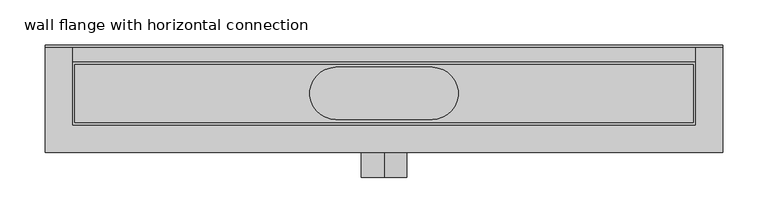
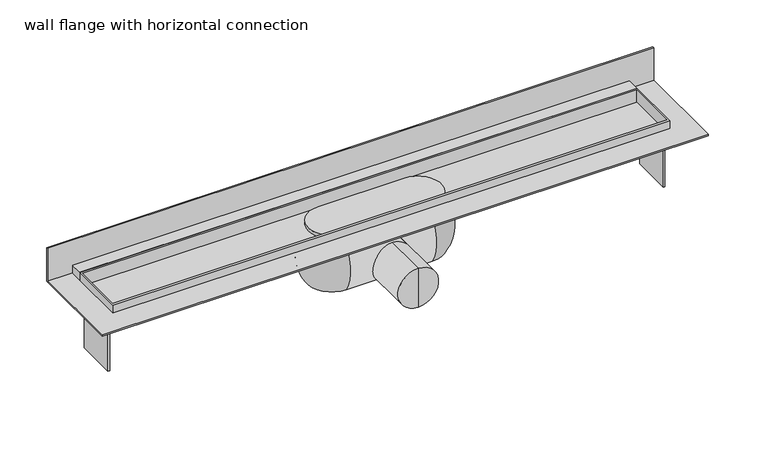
"""IFC4 building model written with IfcOpenShell, lengths in millimetres: sanitary terminal geometry, PF_UN_ShowerDrain C (INT)_ACO : wall flange with horizontal connection."""

from ifc_helpers import new_model, si_unit, point, frame, origin, origin_with_axes, place, context, project, spatial, polyline, circle_curve, ellipse_curve, trimmed, outline, extrude, faceted_brep, source, transform, mapped, element, save
from ifc_brep_helpers import plane_surface, cylinder_surface, revolved_surface, advanced_brep


def wall_flange_with_horizontal_connection_48dca029(model_context):
    return source(origin(), model_context, "Body", "SolidModel", [
        advanced_brep(
        [(-52.8420194, -28.757915, 0.0), (-52.8420194, 28.757915, 0.0), (-52.8420194, 28.757915, -11.7509027), (-52.8420194, -28.757915, -11.7509027), (-52.8420194, 20.3622022, -75.4877048), (-52.8420194, -20.3622022, -75.4877048), (-52.8420194, -30.8518848, -71.7143523), (-52.8420194, 30.8518848, -71.7143523), (52.8420194, -28.757915, 0.0), (52.8420194, -28.757915, -11.7509027), (52.8420194, -30.8518848, -71.7143523), (52.8420194, -20.3622022, -75.4877048), (52.8420194, 20.3622022, -75.4877048), (52.8420194, 30.8518848, -71.7143523), (52.8420194, 28.757915, -11.7509027), (52.8420194, 28.757915, 0.0)],
        [
            (0, 1, circle_curve(frame((-52.8420194, 0.0, 0.0), z_axis=(0.0, 0.0, -1.0), x_axis=(0.0, 1.0, 0.0)), 28.757915)),
            (1, 2),
            (2, 3, circle_curve(frame((-52.8420194, 0.0, -11.7509027), z_axis=(0.0, 0.0, 1.0), x_axis=(0.0, 1.0, 0.0)), 28.757915)),
            (3, 0),
            (4, 5, circle_curve(frame((-52.8420194, 0.0, -75.4877048), z_axis=(0.0, 0.0, 1.0), x_axis=(0.0, 1.0, 0.0)), 20.3622022)),
            (5, 6, circle_curve(frame((-52.8420194, -20.3622022, -59.0206997), z_axis=(-1.0, 0.0, 0.0), x_axis=(0.0, 1.0, 0.0)), 16.4670051)),
            (6, 7, circle_curve(frame((-52.8420194, 0.0, -71.7143523), z_axis=(0.0, 0.0, -1.0), x_axis=(0.0, 1.0, 0.0)), 30.8518848)),
            (7, 4, circle_curve(frame((-52.8420194, 20.3622022, -59.0206997), z_axis=(-1.0, 0.0, 0.0), x_axis=(0.0, -1.0, 0.0)), 16.4670051)),
            (2, 7, circle_curve(frame((-52.8420194, -11.2789491, -43.1673071), z_axis=(-1.0, 0.0, 0.0), x_axis=(0.0, -1.0, 0.0)), 50.8914625)),
            (6, 3, circle_curve(frame((-52.8420194, 11.2789491, -43.1673071), z_axis=(-1.0, 0.0, 0.0), x_axis=(0.0, 1.0, 0.0)), 50.8914625)),
            (8, 0),
            (3, 9),
            (9, 8),
            (6, 10),
            (10, 9, circle_curve(frame((52.8420194, 11.2789491, -43.1673071), z_axis=(-1.0, 0.0, 0.0), x_axis=(0.0, 1.0, 0.0)), 50.8914625)),
            (5, 11),
            (11, 10, circle_curve(frame((52.8420194, -20.3622022, -59.0206997), z_axis=(-1.0, 0.0, 0.0), x_axis=(0.0, 1.0, 0.0)), 16.4670051)),
            (4, 12),
            (12, 11, circle_curve(frame((52.8420194, 0.0, -75.4877048), z_axis=(0.0, 0.0, -1.0), x_axis=(0.0, 1.0, 0.0)), 20.3622022)),
            (7, 13),
            (13, 12, circle_curve(frame((52.8420194, 20.3622022, -59.0206997), z_axis=(-1.0, 0.0, 0.0), x_axis=(0.0, -1.0, 0.0)), 16.4670051)),
            (2, 14),
            (14, 13, circle_curve(frame((52.8420194, -11.2789491, -43.1673071), z_axis=(-1.0, 0.0, 0.0), x_axis=(0.0, -1.0, 0.0)), 50.8914625)),
            (1, 15),
            (15, 14),
            (8, 15, circle_curve(frame((52.8420194, 0.0, 0.0), z_axis=(0.0, 0.0, 1.0), x_axis=(0.0, 1.0, 0.0)), 28.757915)),
            (9, 14, circle_curve(frame((52.8420194, 0.0, -11.7509027), z_axis=(0.0, 0.0, 1.0), x_axis=(0.0, 1.0, 0.0)), 28.757915)),
            (10, 13, circle_curve(frame((52.8420194, 0.0, -71.7143523), z_axis=(0.0, 0.0, 1.0), x_axis=(0.0, 1.0, 0.0)), 30.8518848)),
        ],
        [
            cylinder_surface(frame((-52.8420194, 0.0, 20.0), z_axis=(0.0, 0.0, 1.0), x_axis=(0.0, 1.0, 0.0)), 28.757915),
            revolved_surface(trimmed(ellipse_curve(frame((-52.8420194, 20.3622022, -59.0206997), z_axis=(1.0, 0.0, 0.0), x_axis=(0.0, -1.0, 0.0)), 16.4670051, 16.4670051), [point((-52.8420194, 20.3622022, -75.4877048))], [point((-52.8420194, 30.8518848, -71.7143523))], True, "CARTESIAN"), (-52.8420194, 0.0, 20.0), (0.0, 0.0, 1.0)),
            revolved_surface(trimmed(ellipse_curve(frame((-52.8420194, -11.2789491, -43.1673071), z_axis=(1.0, 0.0, 0.0), x_axis=(0.0, -1.0, 0.0)), 50.8914625, 50.8914625), [point((-52.8420194, 30.8518848, -71.7143523))], [point((-52.8420194, 28.757915, -11.7509027))], True, "CARTESIAN"), (-52.8420194, 0.0, 20.0), (0.0, 0.0, 1.0)),
            plane_surface(frame((52.8420194, -28.757915, 0.0), z_axis=(0.0, -1.0, 0.0), x_axis=(-1.0, 0.0, 0.0))),
            cylinder_surface(frame((-52.8420194, 11.2789491, -43.1673071), z_axis=(1.0, 0.0, 0.0), x_axis=(0.0, 1.0, 0.0)), 50.8914625),
            cylinder_surface(frame((-52.8420194, -20.3622022, -59.0206997), z_axis=(1.0, 0.0, 0.0), x_axis=(0.0, 1.0, 0.0)), 16.4670051),
            plane_surface(frame((52.8420194, -20.3622022, -75.4877048), z_axis=(0.0, 0.0, -1.0), x_axis=(-1.0, 0.0, 0.0))),
            cylinder_surface(frame((-52.8420194, 20.3622022, -59.0206997), z_axis=(1.0, 0.0, 0.0), x_axis=(0.0, -1.0, 0.0)), 16.4670051),
            cylinder_surface(frame((-52.8420194, -11.2789491, -43.1673071), z_axis=(1.0, 0.0, 0.0), x_axis=(0.0, -1.0, 0.0)), 50.8914625),
            plane_surface(frame((52.8420194, 28.757915, -11.7509027), z_axis=(0.0, 1.0, 0.0), x_axis=(-1.0, 0.0, 0.0))),
            plane_surface(frame((52.8420194, 28.757915, 0.0), z_axis=(0.0, 0.0, 1.0), x_axis=(-1.0, 0.0, 0.0))),
            cylinder_surface(frame((52.8420194, 0.0, 20.0), z_axis=(0.0, 0.0, 1.0), x_axis=(0.0, 1.0, 0.0)), 28.757915),
            revolved_surface(trimmed(ellipse_curve(frame((52.8420194, -11.2789491, -43.1673071), z_axis=(1.0, 0.0, 0.0), x_axis=(0.0, -1.0, 0.0)), 50.8914625, 50.8914625), [point((52.8420194, 30.8518848, -71.7143523))], [point((52.8420194, 28.757915, -11.7509027))], True, "CARTESIAN"), (52.8420194, 0.0, 20.0), (0.0, 0.0, 1.0)),
            revolved_surface(trimmed(ellipse_curve(frame((52.8420194, 20.3622022, -59.0206997), z_axis=(1.0, 0.0, 0.0), x_axis=(0.0, -1.0, 0.0)), 16.4670051, 16.4670051), [point((52.8420194, 20.3622022, -75.4877048))], [point((52.8420194, 30.8518848, -71.7143523))], True, "CARTESIAN"), (52.8420194, 0.0, 20.0), (0.0, 0.0, 1.0)),
        ],
        [
            (0, [[1, 2, 3, 4]]),
            (1, [[5, 6, 7, 8]]),
            (2, [[-3, 9, -7, 10]]),
            (3, [[11, -4, 12, 13]]),
            (4, [[-12, -10, 14, 15]]),
            (5, [[-14, -6, 16, 17]]),
            (6, [[-16, -5, 18, 19]]),
            (7, [[-18, -8, 20, 21]]),
            (8, [[-20, -9, 22, 23]]),
            (9, [[-22, -2, 24, 25]]),
            (10, [[-11, 26, -24, -1]]),
            (11, [[27, -25, -26, -13]]),
            (12, [[-27, -15, 28, -23]]),
            (13, [[-28, -17, -19, -21]]),
        ],
    ),
        advanced_brep(
        [(0.0, -92.5, -50.4496), (0.0, -92.5, -25.404795), (0.0, -92.5, -75.494405), (0.0, -23.2223331, -75.494405), (0.0, -23.2223331, -25.404795), (0.0, -23.2223331, -50.4496)],
        [
            (0, 1),
            (1, 2, circle_curve(frame((0.0, -92.5, -50.4496), z_axis=(0.0, -1.0, 0.0), x_axis=(0.0, 0.0, 1.0)), 25.044805)),
            (2, 0),
            (2, 1, circle_curve(frame((0.0, -92.5, -50.4496), z_axis=(0.0, -1.0, 0.0), x_axis=(0.0, 0.0, 1.0)), 25.044805)),
            (3, 4, circle_curve(frame((0.0, -23.2223331, -50.4496), z_axis=(0.0, 1.0, 0.0), x_axis=(0.0, 0.0, 1.0)), 25.044805)),
            (4, 5),
            (5, 3),
            (4, 3, circle_curve(frame((0.0, -23.2223331, -50.4496), z_axis=(0.0, 1.0, 0.0), x_axis=(0.0, 0.0, 1.0)), 25.044805)),
            (1, 4),
            (3, 2),
        ],
        [
            plane_surface(frame((0.0, -92.5, -50.4496), z_axis=(0.0, -1.0, 0.0), x_axis=(0.0, 0.0, 1.0))),
            plane_surface(frame((0.0, -23.2223331, -50.4496), z_axis=(0.0, 1.0, 0.0), x_axis=(0.0, 0.0, 1.0))),
            cylinder_surface(frame((0.0, -92.5, -50.4496), z_axis=(0.0, -1.0, 0.0), x_axis=(0.0, 0.0, 1.0)), 25.044805),
        ],
        [
            (0, [[1, 2, 3]]),
            (0, [[-3, 4, -1]]),
            (1, [[5, 6, 7]]),
            (1, [[8, -7, -6]]),
            (2, [[-2, 9, -5, 10]]),
            (2, [[-4, -10, -8, -9]]),
        ],
    ),
        extrude(outline(polyline([(372.5, 51.0), (-372.5, 51.0), (-372.5, 53.0), (372.5, 53.0), (372.5, 51.0)])), origin_with_axes(), (0.0, 0.0, 1.0), 44.0),
        extrude(outline(polyline([(342.5, 51.0), (342.5, 35.0), (-342.5, 35.0), (-342.5, 51.0), (342.5, 51.0)])), origin_with_axes(), (0.0, 0.0, 1.0), 12.0),
        faceted_brep([(342.5, 35.0, 12.0), (-342.5, 35.0, 12.0), (-342.5, -35.0, 12.0), (342.5, -35.0, 12.0), (-340.5, 32.0, 12.0), (340.5, 32.0, 12.0), (340.5, -32.0, 12.0), (-340.5, -32.0, 12.0), (342.5, -35.0, -6.0), (-342.5, -35.0, -6.0), (-342.5, -25.0, -6.0), (-340.5, -25.0, -6.0), (-340.5, 25.0, -6.0), (-342.5, 25.0, -6.0), (-342.5, 35.0, -6.0), (342.5, 35.0, -6.0), (342.5, 25.0, -6.0), (340.5, 25.0, -6.0), (340.5, -25.0, -6.0), (342.5, -25.0, -6.0), (-342.5, 25.0, -80.0), (-342.5, -25.0, -80.0), (342.5, -25.0, -80.0), (342.5, 25.0, -80.0), (340.5, 32.0, -4.0), (-340.5, 32.0, -4.0), (-340.5, -32.0, -4.0), (340.5, -32.0, -4.0), (340.5, -25.0, -80.0), (-340.5, -25.0, -80.0), (-340.5, 25.0, -80.0), (340.5, 25.0, -80.0)], [[[0, 1, 2, 3], [4, 5, 6, 7]], [[8, 9, 10, 11, 12, 13, 14, 15, 16, 17, 18, 19]], [[1, 0, 15, 14]], [[2, 1, 14, 13, 20, 21, 10, 9]], [[3, 2, 9, 8]], [[0, 3, 8, 19, 22, 23, 16, 15]], [[24, 25, 26, 27]], [[25, 24, 5, 4]], [[26, 25, 4, 7]], [[27, 26, 7, 6]], [[24, 27, 6, 5]], [[22, 19, 18, 28]], [[21, 29, 11, 10]], [[20, 13, 12, 30]], [[23, 31, 17, 16]], [[29, 21, 20, 30]], [[11, 29, 30, 12]], [[28, 18, 17, 31]], [[22, 28, 31, 23]]]),
        extrude(outline(polyline([(372.5, 51.0), (372.5, -65.0), (-372.5, -65.0), (-372.5, 51.0), (372.5, 51.0)]), holes=[polyline([(340.5, 32.0), (-340.5, 32.0), (-340.5, -32.0), (340.5, -32.0), (340.5, 32.0)])]), origin_with_axes(), (0.0, 0.0, 1.0), 2.0),
    ])


if __name__ == "__main__":
    model = new_model("IFC4")
    model_context = context("Model", 3, world=origin())
    ifc_project = project(units=[si_unit("LENGTHUNIT", "METRE", prefix="MILLI")], contexts=[model_context])
    site = spatial("IfcSite", under=ifc_project)
    building = spatial("IfcBuilding", under=site)
    placement = place(None, origin())
    wall_flange_with_horizontal_connection_shape = wall_flange_with_horizontal_connection_48dca029(model_context)
    element("IfcSanitaryTerminal", 1, ObjectType="PF_UN_ShowerDrain C (INT)_ACO : wall flange with horizontal connection", at=placement, inside=building, context=model_context, shape_type="MappedRepresentation", body=[
        mapped(wall_flange_with_horizontal_connection_shape, transform((0.0, 0.0, 0.0), x_axis=(1.0, 0.0, 0.0), y_axis=(0.0, 1.0, 0.0), z_axis=(0.0, 0.0, 1.0))),
    ])
    save(model, "model.ifc")
